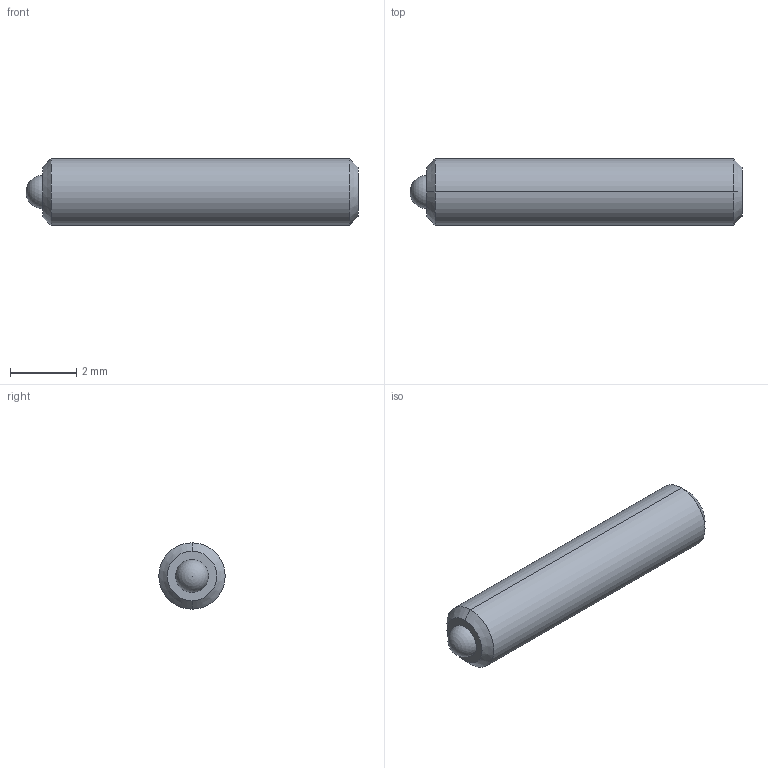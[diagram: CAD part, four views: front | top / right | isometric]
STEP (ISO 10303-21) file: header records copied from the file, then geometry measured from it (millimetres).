
FILE_DESCRIPTION (( 'STEP AP214' ), '1' );
FILE_NAME ('TS2-25-10.STEP', '2013-02-17T16:47:32', ( 'workpc' ), ( 'Microsoft' ), 'SwSTEP 2.0', 'SolidWorks 2013', '' );
FILE_SCHEMA (( 'AUTOMOTIVE_DESIGN' ));
Length unit declared in the file: millimetre
Products named in the file (1): TS2-25-10
Bounding box: 10 x 2 x 2 mm (x, y, z)
Volume: 28.2 mm3; surface area: 74.9 mm2
Topology: 2 solids, 2 shells, 20 faces, 45 edges, 29 vertices
Faces by surface type: plane 10, cylinder 4, cone 4, sphere 2
Entity records: 587 total; most frequent: DIRECTION 96, CARTESIAN_POINT 87, ORIENTED_EDGE 80, EDGE_CURVE 40, AXIS2_PLACEMENT_3D 35, VECTOR 26, LINE 26, VERTEX_POINT 26
